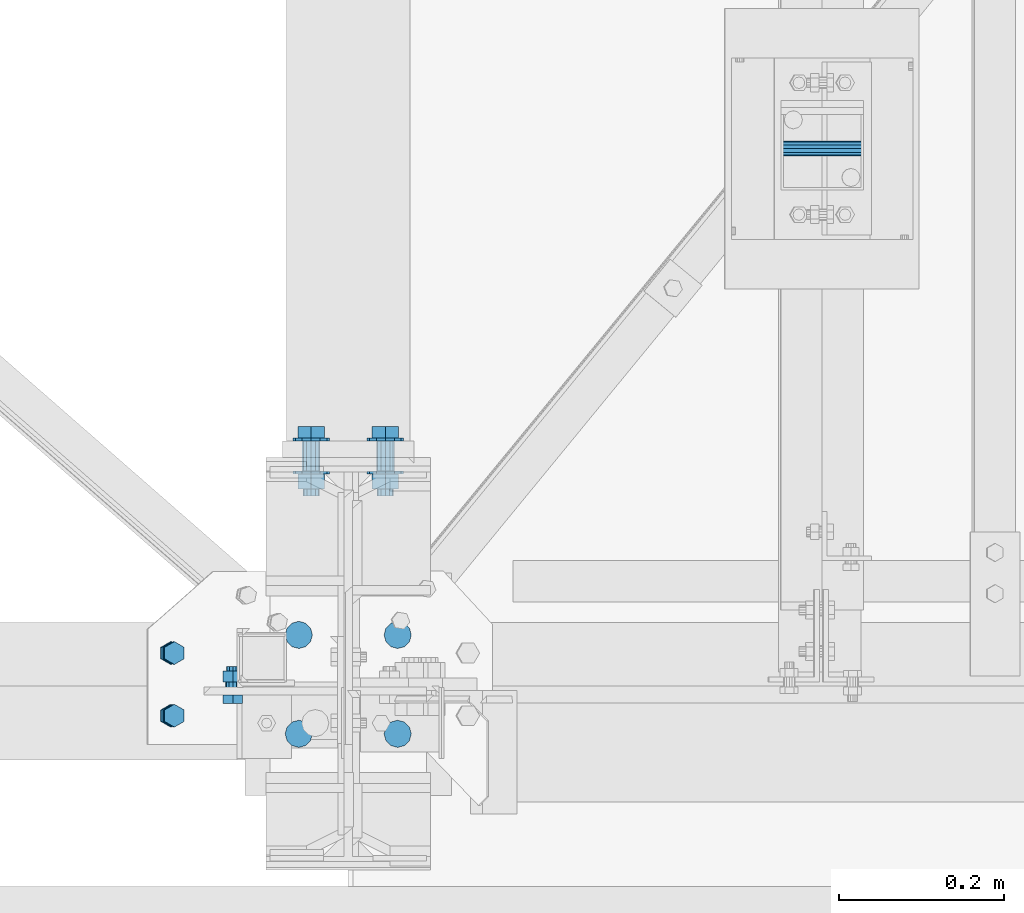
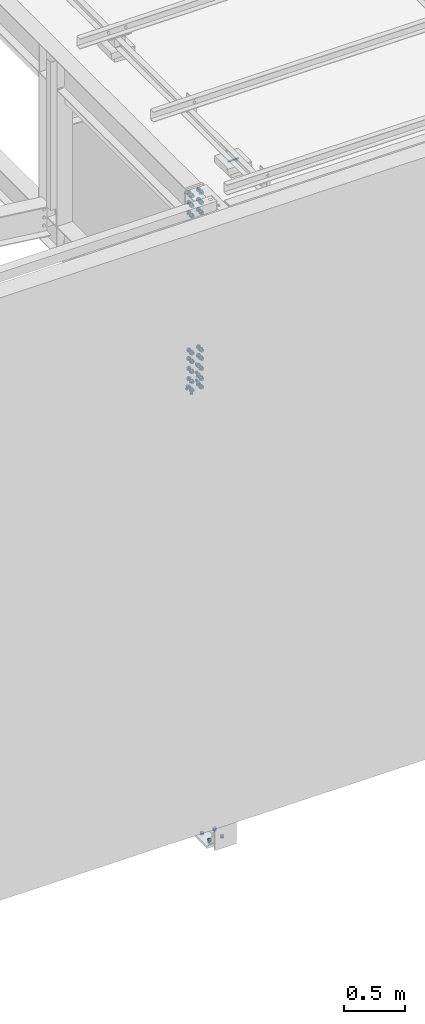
# One storey, part 299 of 3134: 6 mechanical fasteners, 4 elements without a shape of their own.
"""IFC2X3 building model written with IfcOpenShell, lengths in millimetres."""

import ifcopenshell
import ifcopenshell.guid

model = None  # the IFC model being written
_history = None  # IfcOwnerHistory: only IFC2X3 demands one
_inside = {}  # id of a spatial element -> (the spatial element, [elements in it])
_under = {}  # id of a project, library or spatial element -> (it, [spatial elements below it])
_declared = {}  # id of a project -> (the project, [libraries it declares])
_typed = {}  # id of a type object -> (the type object, [elements of that type])
_made_of = {}  # id of a material, layer set ... -> (it, [elements and type objects made of it])


def new_model(schema):
    """Start an empty IFC model of exactly this schema.

    Asked for "IFC4X3", IfcOpenShell would pick the latest addendum, in which some entities
    have other attributes; the version numbers below select the first issue.
    IFC2X3 requires an IfcOwnerHistory on every rooted entity: one is made here for all.
    """
    global model, _history
    if schema == "IFC4X3":
        model = ifcopenshell.file(schema_version=(4, 3, 0, 0))
    else:
        model = ifcopenshell.file(schema=schema)
    _inside.clear()
    _under.clear()
    _declared.clear()
    _typed.clear()
    _made_of.clear()
    _history = None
    if model.schema == "IFC2X3":
        org = make("IfcOrganization", Name="unknown")
        user = make(
            "IfcPersonAndOrganization",
            ThePerson=make("IfcPerson", FamilyName="unknown"),
            TheOrganization=org,
        )
        app = make(
            "IfcApplication",
            ApplicationDeveloper=org,
            Version="unknown",
            ApplicationFullName="unknown",
            ApplicationIdentifier="unknown",
        )
        _history = make(
            "IfcOwnerHistory",
            OwningUser=user,
            OwningApplication=app,
            ChangeAction="ADDED",
            CreationDate=0,
        )
    return model


def make(cls, **values):
    """One entity of the class cls with the attributes given. An attribute that is None is left unset."""
    return model.create_entity(
        cls, **{name: value for name, value in values.items() if value is not None}
    )


def rooted(cls, **values):
    """An entity with a GlobalId (a new one), such as an element, a storey or a relation."""
    return make(cls, GlobalId=ifcopenshell.guid.new(), OwnerHistory=_history, **values)


def si_unit(unit_type, name, prefix=None):
    """IfcSIUnit, for example si_unit("LENGTHUNIT", "METRE", prefix="MILLI")."""
    return make("IfcSIUnit", UnitType=unit_type, Prefix=prefix, Name=name)


def assignment(units):
    """IfcUnitAssignment: the units of a project."""
    return None if units is None else make("IfcUnitAssignment", Units=units)


def point(xyz):
    """IfcCartesianPoint."""
    return None if xyz is None else make("IfcCartesianPoint", Coordinates=xyz)


def direction(xyz):
    """IfcDirection."""
    return None if xyz is None else make("IfcDirection", DirectionRatios=xyz)


def frame(location, z_axis=None, x_axis=None):
    """IfcAxis2Placement3D, a coordinate frame: its origin and axes. An axis left out is left unset."""
    return make(
        "IfcAxis2Placement3D",
        Location=point(location),
        Axis=direction(z_axis),
        RefDirection=direction(x_axis),
    )


def origin_with_axes():
    """The frame at (0, 0, 0) with the z axis (0, 0, 1) and the x axis (1, 0, 0) written out."""
    return frame((0.0, 0.0, 0.0), z_axis=(0.0, 0.0, 1.0), x_axis=(1.0, 0.0, 0.0))


def place(relative_to, where):
    """IfcLocalPlacement: puts the frame where relative to a parent placement (None: the world)."""
    return make(
        "IfcLocalPlacement", PlacementRelTo=relative_to, RelativePlacement=where
    )


def context(
    kind, dimensions, precision=None, world=None, true_north=None, identifier=None
):
    """IfcGeometricRepresentationContext, for example the 3D "Model" context."""
    return make(
        "IfcGeometricRepresentationContext",
        ContextIdentifier=identifier,
        ContextType=kind,
        CoordinateSpaceDimension=dimensions,
        Precision=precision,
        WorldCoordinateSystem=world,
        TrueNorth=true_north,
    )


def subcontext(parent, identifier, kind, view, scale=None):
    """IfcGeometricRepresentationSubContext, for example "Body" below "Model"."""
    return make(
        "IfcGeometricRepresentationSubContext",
        ContextIdentifier=identifier,
        ContextType=kind,
        ParentContext=parent,
        TargetScale=scale,
        TargetView=view,
    )


def project(units=None, contexts=None):
    """IfcProject with its units and contexts."""
    return rooted(
        "IfcProject",
        Name="project",
        RepresentationContexts=contexts,
        UnitsInContext=assignment(units),
    )


def spatial(cls, under=None, at=None, **own):
    """A site, building, storey or space (cls), placed at a placement, below another one or the project."""
    s = rooted(cls, ObjectPlacement=at, **own)
    if under is not None:
        _under.setdefault(under.id(), (under, []))[1].append(s)
    return s


def faces_of(points, faces, orient=None, outer=None):
    """IfcFace entities. A face is a list of loops; a loop is a list of indices into points, from 0.

    orient and outer hold one flag for each loop. By default every Orientation is true, the
    first loop of a face is its IfcFaceOuterBound and the others are IfcFaceBound.
    """
    made = []
    for i, loops in enumerate(faces):
        bounds = []
        for j, loop in enumerate(loops):
            is_outer = j == 0 if outer is None else outer[i][j]
            bounds.append(
                make(
                    "IfcFaceOuterBound" if is_outer else "IfcFaceBound",
                    Bound=make("IfcPolyLoop", Polygon=[points[k] for k in loop]),
                    Orientation=True if orient is None else orient[i][j],
                )
            )
        made.append(make("IfcFace", Bounds=bounds))
    return made


def faceted_brep(points, faces, orient=None, outer=None, voids=None):
    """IfcFacetedBrep: a solid bounded by flat faces; with voids (closed shells), ...WithVoids."""
    shared = [point(p) for p in points]
    hull = make("IfcClosedShell", CfsFaces=faces_of(shared, faces, orient, outer))
    if voids is None:
        return make("IfcFacetedBrep", Outer=hull)
    return make(
        "IfcFacetedBrepWithVoids",
        Outer=hull,
        Voids=[
            make(cls, CfsFaces=faces_of(shared, fs, o, b)) for cls, fs, o, b in voids
        ],
    )


def shape(context_of_items, identifier, shape_type, items):
    """IfcShapeRepresentation: the items that make up one representation, for example the "Body"."""
    return make(
        "IfcShapeRepresentation",
        ContextOfItems=context_of_items,
        RepresentationIdentifier=identifier,
        RepresentationType=shape_type,
        Items=items,
    )


def source(mapping_origin, context_of_items, identifier, shape_type, items):
    """IfcRepresentationMap: a shape defined once, which mapped items show again and again."""
    return make(
        "IfcRepresentationMap",
        MappingOrigin=mapping_origin,
        MappedRepresentation=shape(context_of_items, identifier, shape_type, items),
    )


def transform(
    local_origin,
    x_axis=None,
    y_axis=None,
    z_axis=None,
    scale=None,
    scale2=None,
    scale3=None,
    uniform=True,
):
    """IfcCartesianTransformationOperator3D, or its non-uniform kind. x_axis, y_axis, z_axis: its Axis1, 2, 3."""
    if uniform:
        return make(
            "IfcCartesianTransformationOperator3D",
            Axis1=direction(x_axis),
            Axis2=direction(y_axis),
            LocalOrigin=point(local_origin),
            Scale=scale,
            Axis3=direction(z_axis),
        )
    return make(
        "IfcCartesianTransformationOperator3DnonUniform",
        Axis1=direction(x_axis),
        Axis2=direction(y_axis),
        LocalOrigin=point(local_origin),
        Scale=scale,
        Axis3=direction(z_axis),
        Scale2=scale2,
        Scale3=scale3,
    )


def mapped(mapping_source, mapping_target):
    """IfcMappedItem: shows the shape of a source again, moved by a transform."""
    return make(
        "IfcMappedItem", MappingSource=mapping_source, MappingTarget=mapping_target
    )


def material(Name=None, Category=None):
    """IfcMaterial."""
    return make("IfcMaterial", Name=Name, Category=Category)


def made_of(thing, what):
    """Note that an element or type object is made of a material, layer set ...; save() writes the relation."""
    if what is not None:
        _made_of.setdefault(what.id(), (what, []))[1].append(thing)
    return thing


def type_object(cls, material=None, **own):
    """A type object (cls), such as IfcWallType, which elements share."""
    return made_of(rooted(cls, **own), material)


def element(
    cls,
    number,
    at=None,
    inside=None,
    cuts=None,
    type_object=None,
    material=None,
    context=None,
    identifier="Body",
    shape_type=None,
    held_by="IfcProductDefinitionShape",
    body=None,
    shapes=None,
    **own,
):
    """One element of the class cls, such as IfcWall. Its Tag is "e" and its number.

    at: its placement. inside: the storey or other place that contains it. cuts: it is an
    opening in that element (IfcRelVoidsElement). A single representation is given by context,
    identifier, shape_type and body (its items); several are given by shapes. held_by: the class
    of the entity that holds the representations. save() writes the other relations.
    """
    e = rooted(cls, Tag="e%d" % number, ObjectPlacement=at, **own)
    if body is not None:
        shapes = [shape(context, identifier, shape_type, body)]
    if shapes is not None:
        e.Representation = make(held_by, Representations=shapes)
    if inside is not None:
        _inside.setdefault(inside.id(), (inside, []))[1].append(e)
    if cuts is not None:
        rooted(
            "IfcRelVoidsElement", RelatingBuildingElement=cuts, RelatedOpeningElement=e
        )
    if type_object is not None:
        _typed.setdefault(type_object.id(), (type_object, []))[1].append(e)
    return made_of(e, material)


def aggregate(whole, parts):
    """IfcRelAggregates: a whole, such as a stair, and the parts it consists of."""
    return rooted("IfcRelAggregates", RelatingObject=whole, RelatedObjects=parts)


def save(model, path):
    """Write the relations noted so far, then the file.

    IfcRelAggregates (storeys below a building ...), IfcRelContainedInSpatialStructure (elements
    in a storey), IfcRelDefinesByType, IfcRelAssociatesMaterial and IfcRelDeclares: one each for
    every whole, place, type object, material and project.
    """
    for whole, parts in _under.values():
        aggregate(whole, parts)
    for where, things in _inside.values():
        rooted(
            "IfcRelContainedInSpatialStructure",
            RelatedElements=things,
            RelatingStructure=where,
        )
    for kind, things in _typed.values():
        rooted("IfcRelDefinesByType", RelatedObjects=things, RelatingType=kind)
    for what, things in _made_of.values():
        rooted("IfcRelAssociatesMaterial", RelatedObjects=things, RelatingMaterial=what)
    for by, libraries in _declared.values():
        rooted("IfcRelDeclares", RelatingContext=by, RelatedDefinitions=libraries)
    model.write(path)


model = new_model("IFC2X3")

# Units and contexts
model_context = context("Model", 3, precision=1e-05, world=origin_with_axes())
body_context = subcontext(model_context, "Body", "Model", "MODEL_VIEW")
ifc_project = project(units=[si_unit("LENGTHUNIT", "METRE", prefix="MILLI"), si_unit("AREAUNIT", "SQUARE_METRE"), si_unit("VOLUMEUNIT", "CUBIC_METRE"), si_unit("MASSUNIT", "GRAM", prefix="KILO"), si_unit("TIMEUNIT", "SECOND"), si_unit("PLANEANGLEUNIT", "RADIAN"), si_unit("SOLIDANGLEUNIT", "STERADIAN"), si_unit("THERMODYNAMICTEMPERATUREUNIT", "DEGREE_CELSIUS"), si_unit("LUMINOUSINTENSITYUNIT", "LUMEN")], contexts=[model_context])

# Site, building, storey
site_placement = place(None, origin_with_axes())
site = spatial("IfcSite", under=ifc_project, at=site_placement, CompositionType="ELEMENT")
building_placement = place(site_placement, origin_with_axes())
building = spatial("IfcBuilding", under=site, at=building_placement, Name="Undefined", CompositionType="ELEMENT")
storey_placement = place(building_placement, origin_with_axes())
storey = spatial("IfcBuildingStorey", under=building, at=storey_placement, Name="Undefined", CompositionType="ELEMENT", Elevation=0.0)

# Assembly, mechanical fasteners
assembly_1_placement = place(storey_placement, origin_with_axes())
assembly_1 = element("IfcElementAssembly", 1, at=assembly_1_placement, inside=storey, Name="300", AssemblyPlace="NOTDEFINED", PredefinedType="RIGID_FRAME")
ifc_material_1 = material(Name="HR10.9")
mechanical_fastener_type = type_object("IfcMechanicalFastenerType", Name="Bolt assembly")
shared_shape_1 = source(origin_with_axes(), body_context, "Body", "Brep", [
    faceted_brep([(18.475208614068, -17.599999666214, 0.0), (9.23760430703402, -17.599999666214, 16.0), (-9.23760430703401, -17.599999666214, 16.0), (-18.475208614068, -17.599999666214, 2.2625605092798e-15), (-9.23760430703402, -17.599999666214, -16.0), (9.237604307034, -17.599999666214, -16.0), (9.237604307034, -3.70000004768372, -16.0), (-9.23760430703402, -3.70000004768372, -16.0), (-18.475208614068, -3.70000004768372, 2.2625605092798e-15), (-9.23760430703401, -3.70000004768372, 16.0), (9.23760430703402, -3.70000004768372, 16.0), (18.475208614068, -3.70000004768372, 0.0), (10.0, -3.70000004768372, 0.0), (8.66025403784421, -3.70000004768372, 5.0000000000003), (4.9999999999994, -3.70000004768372, 8.66025403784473), (-1.03633598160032e-12, -3.70000004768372, 10.0), (-5.00000000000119, -3.70000004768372, 8.6602540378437), (-8.66025403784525, -3.70000004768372, 4.99999999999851), (-10.0, -3.70000004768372, -2.07267196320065e-12), (-8.66025403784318, -3.70000004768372, -5.00000000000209), (-4.99999999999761, -3.70000004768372, -8.66025403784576), (3.09790571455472e-12, -3.70000004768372, -10.0), (5.00000000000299, -3.70000004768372, -8.66025403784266), (8.66025403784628, -3.70000004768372, -4.99999999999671), (8.66025403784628, 66.2999999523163, -4.99999999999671), (5.00000000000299, 66.2999999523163, -8.66025403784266), (3.09790571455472e-12, 66.2999999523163, -10.0), (-4.99999999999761, 66.2999999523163, -8.66025403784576), (-8.66025403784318, 66.2999999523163, -5.00000000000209), (-10.0, 66.2999999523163, -2.07267196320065e-12), (-8.66025403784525, 66.2999999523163, 4.99999999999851), (-5.00000000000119, 66.2999999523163, 8.6602540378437), (-1.03633598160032e-12, 66.2999999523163, 10.0), (4.9999999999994, 66.2999999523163, 8.66025403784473), (8.66025403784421, 66.2999999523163, 5.0000000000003), (10.0, 66.2999999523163, 0.0), (22.0, -3.70000004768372, 0.0), (19.0525588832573, -3.70000004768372, 11.0000000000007), (10.9999999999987, -3.70000004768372, 19.0525588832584), (-2.27993915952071e-12, -3.70000004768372, 22.0), (-11.0000000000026, -3.70000004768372, 19.0525588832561), (-19.0525588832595, -3.70000004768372, 10.9999999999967), (-22.0, -3.70000004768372, -4.55987831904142e-12), (-19.052558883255, -3.70000004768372, -11.0000000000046), (-10.9999999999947, -3.70000004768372, -19.0525588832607), (6.81539257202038e-12, -3.70000004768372, -22.0), (11.0000000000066, -3.70000004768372, -19.0525588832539), (19.0525588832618, -3.70000004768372, -10.9999999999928), (19.0525588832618, 0.0, -10.9999999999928), (11.0000000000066, 0.0, -19.0525588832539), (6.81539257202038e-12, 0.0, -22.0), (-10.9999999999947, 0.0, -19.0525588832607), (-19.052558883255, 0.0, -11.0000000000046), (-22.0, 0.0, -4.55987831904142e-12), (-19.0525588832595, 0.0, 10.9999999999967), (-11.0000000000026, 0.0, 19.0525588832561), (-2.27993915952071e-12, 0.0, 22.0), (10.9999999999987, 0.0, 19.0525588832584), (19.0525588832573, 0.0, 11.0000000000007), (22.0, 0.0, 0.0), (22.0, 36.0, 0.0), (19.0525588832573, 36.0, 11.0000000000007), (10.9999999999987, 36.0, 19.0525588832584), (-2.27993915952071e-12, 36.0, 22.0), (-11.0000000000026, 36.0, 19.0525588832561), (-19.0525588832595, 36.0, 10.9999999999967), (-22.0, 36.0, -4.55987831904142e-12), (-19.052558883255, 36.0, -11.0000000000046), (-10.9999999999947, 36.0, -19.0525588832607), (6.81539257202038e-12, 36.0, -22.0), (11.0000000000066, 36.0, -19.0525588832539), (19.0525588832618, 36.0, -10.9999999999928), (19.0525588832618, 39.7000000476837, -10.9999999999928), (11.0000000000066, 39.7000000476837, -19.0525588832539), (6.81539257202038e-12, 39.7000000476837, -22.0), (-10.9999999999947, 39.7000000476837, -19.0525588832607), (-19.052558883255, 39.7000000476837, -11.0000000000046), (-22.0, 39.7000000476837, -4.55987831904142e-12), (-19.0525588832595, 39.7000000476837, 10.9999999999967), (-11.0000000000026, 39.7000000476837, 19.0525588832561), (-2.27993915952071e-12, 39.7000000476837, 22.0), (10.9999999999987, 39.7000000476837, 19.0525588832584), (19.0525588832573, 39.7000000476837, 11.0000000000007), (22.0, 39.7000000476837, 0.0), (18.475208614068, 39.7000000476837, 0.0), (9.23760430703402, 39.7000000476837, 16.0), (-9.23760430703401, 39.7000000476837, 16.0), (-18.475208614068, 39.7000000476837, 2.2625605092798e-15), (-9.23760430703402, 39.7000000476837, -16.0), (9.237604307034, 39.7000000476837, -16.0), (9.237604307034, 58.2499992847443, -16.0), (-9.23760430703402, 58.2499992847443, -16.0), (-18.475208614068, 58.2499992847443, 2.2625605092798e-15), (-9.23760430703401, 58.2499992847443, 16.0), (9.23760430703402, 58.2499992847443, 16.0), (18.475208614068, 58.2499992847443, 0.0)], [[[0, 1, 2, 3, 4, 5]], [[6, 7, 8, 9, 10, 11]], [[0, 11, 10, 1]], [[1, 10, 9, 2]], [[2, 9, 8, 3]], [[3, 8, 7, 4]], [[4, 7, 6, 5]], [[5, 6, 11, 0]], [[12, 13, 14, 15, 16, 17, 18, 19, 20, 21, 22, 23]], [[24, 25, 26, 27, 28, 29, 30, 31, 32, 33, 34, 35]], [[12, 35, 34, 13]], [[13, 34, 33, 14]], [[14, 33, 32, 15]], [[15, 32, 31, 16]], [[16, 31, 30, 17]], [[17, 30, 29, 18]], [[18, 29, 28, 19]], [[19, 28, 27, 20]], [[20, 27, 26, 21]], [[21, 26, 25, 22]], [[22, 25, 24, 23]], [[23, 24, 35, 12]], [[36, 37, 38, 39, 40, 41, 42, 43, 44, 45, 46, 47]], [[48, 49, 50, 51, 52, 53, 54, 55, 56, 57, 58, 59]], [[36, 59, 58, 37]], [[37, 58, 57, 38]], [[38, 57, 56, 39]], [[39, 56, 55, 40]], [[40, 55, 54, 41]], [[41, 54, 53, 42]], [[42, 53, 52, 43]], [[43, 52, 51, 44]], [[44, 51, 50, 45]], [[45, 50, 49, 46]], [[46, 49, 48, 47]], [[47, 48, 59, 36]], [[60, 61, 62, 63, 64, 65, 66, 67, 68, 69, 70, 71]], [[72, 73, 74, 75, 76, 77, 78, 79, 80, 81, 82, 83]], [[60, 83, 82, 61]], [[61, 82, 81, 62]], [[62, 81, 80, 63]], [[63, 80, 79, 64]], [[64, 79, 78, 65]], [[65, 78, 77, 66]], [[66, 77, 76, 67]], [[67, 76, 75, 68]], [[68, 75, 74, 69]], [[69, 74, 73, 70]], [[70, 73, 72, 71]], [[71, 72, 83, 60]], [[84, 85, 86, 87, 88, 89]], [[90, 91, 92, 93, 94, 95]], [[84, 95, 94, 85]], [[85, 94, 93, 86]], [[86, 93, 92, 87]], [[87, 92, 91, 88]], [[88, 91, 90, 89]], [[89, 90, 95, 84]]]),
    faceted_brep([(11.0, 19.9, 0.0), (9.52627944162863, 19.9, 5.50000000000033), (5.49999999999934, 19.9, 9.5262794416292), (-1.13996957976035e-12, 19.9, 11.0), (-5.50000000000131, 19.9, 9.52627944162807), (-9.52627944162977, 19.9, 5.49999999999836), (-11.0, 19.9, -2.27993915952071e-12), (-9.5262794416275, 19.9, -5.5000000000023), (-5.49999999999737, 19.9, -9.52627944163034), (3.40769628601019e-12, 19.9, -11.0), (5.50000000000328, 19.9, -9.52627944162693), (9.52627944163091, 19.9, -5.49999999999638), (9.52627944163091, 36.0, -5.49999999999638), (5.50000000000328, 36.0, -9.52627944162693), (3.40769628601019e-12, 36.0, -11.0), (-5.49999999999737, 36.0, -9.52627944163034), (-9.5262794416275, 36.0, -5.5000000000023), (-11.0, 36.0, -2.27993915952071e-12), (-9.52627944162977, 36.0, 5.49999999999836), (-5.50000000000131, 36.0, 9.52627944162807), (-1.13996957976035e-12, 36.0, 11.0), (5.49999999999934, 36.0, 9.5262794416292), (9.52627944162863, 36.0, 5.50000000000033), (11.0, 36.0, 0.0), (11.0, 0.0999999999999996, 0.0), (9.52627944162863, 0.0999999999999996, 5.50000000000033), (5.49999999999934, 0.0999999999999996, 9.5262794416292), (-1.13996957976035e-12, 0.0999999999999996, 11.0), (-5.50000000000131, 0.0999999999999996, 9.52627944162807), (-9.52627944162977, 0.0999999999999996, 5.49999999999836), (-11.0, 0.0999999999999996, -2.27993915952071e-12), (-9.5262794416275, 0.0999999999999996, -5.5000000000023), (-5.49999999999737, 0.0999999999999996, -9.52627944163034), (3.40769628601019e-12, 0.0999999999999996, -11.0), (5.50000000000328, 0.0999999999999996, -9.52627944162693), (9.52627944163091, 0.0999999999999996, -5.49999999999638), (9.52627944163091, 20.1, -5.49999999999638), (5.50000000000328, 20.1, -9.52627944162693), (3.40769628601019e-12, 20.1, -11.0), (-5.49999999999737, 20.1, -9.52627944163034), (-9.5262794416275, 20.1, -5.5000000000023), (-11.0, 20.1, -2.27993915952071e-12), (-9.52627944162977, 20.1, 5.49999999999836), (-5.50000000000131, 20.1, 9.52627944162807), (-1.13996957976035e-12, 20.1, 11.0), (5.49999999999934, 20.1, 9.5262794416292), (9.52627944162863, 20.1, 5.50000000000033), (11.0, 20.1, 0.0)], [[[0, 1, 2, 3, 4, 5, 6, 7, 8, 9, 10, 11]], [[12, 13, 14, 15, 16, 17, 18, 19, 20, 21, 22, 23]], [[0, 23, 22, 1]], [[1, 22, 21, 2]], [[2, 21, 20, 3]], [[3, 20, 19, 4]], [[4, 19, 18, 5]], [[5, 18, 17, 6]], [[6, 17, 16, 7]], [[7, 16, 15, 8]], [[8, 15, 14, 9]], [[9, 14, 13, 10]], [[10, 13, 12, 11]], [[11, 12, 23, 0]], [[24, 25, 26, 27, 28, 29, 30, 31, 32, 33, 34, 35]], [[36, 37, 38, 39, 40, 41, 42, 43, 44, 45, 46, 47]], [[24, 47, 46, 25]], [[25, 46, 45, 26]], [[26, 45, 44, 27]], [[27, 44, 43, 28]], [[28, 43, 42, 29]], [[29, 42, 41, 30]], [[30, 41, 40, 31]], [[31, 40, 39, 32]], [[32, 39, 38, 33]], [[33, 38, 37, 34]], [[34, 37, 36, 35]], [[35, 36, 47, 24]]]),
])
mechanical_fastener_1_placement = place(assembly_1_placement, frame((67550.0, 295.0, 5841.5), z_axis=(-1.0, 0.0, 0.0), x_axis=(0.0, 0.0, -1.0)))
mechanical_fastener_1 = element("IfcMechanicalFastener", 2, at=mechanical_fastener_1_placement, type_object=mechanical_fastener_type, material=ifc_material_1, Name="Bolt assembly", NominalDiameter=20.0, NominalLength=70.0, context=body_context, shape_type="MappedRepresentation", body=[
    mapped(shared_shape_1, transform((0.0, 0.0, -45.0))),
    mapped(shared_shape_1, transform((100.0, 0.0, -45.0))),
    mapped(shared_shape_1, transform((200.0, 0.0, -45.0))),
    mapped(shared_shape_1, transform((0.0, 0.0, 45.0))),
    mapped(shared_shape_1, transform((100.0, 0.0, 45.0))),
    mapped(shared_shape_1, transform((200.0, 0.0, 45.0))),
])
mechanical_fastener_2_placement = place(assembly_1_placement, frame((67550.0, 295.0, 4273.5), z_axis=(-1.0, 0.0, 0.0), x_axis=(0.0, 0.0, -1.0)))
mechanical_fastener_2 = element("IfcMechanicalFastener", 3, at=mechanical_fastener_2_placement, type_object=mechanical_fastener_type, material=ifc_material_1, Name="Bolt assembly", NominalDiameter=20.0, NominalLength=70.0, context=body_context, shape_type="MappedRepresentation", body=[
    mapped(shared_shape_1, transform((0.0, 0.0, -45.0))),
    mapped(shared_shape_1, transform((85.0, 0.0, -45.0))),
    mapped(shared_shape_1, transform((185.0, 0.0, -45.0))),
    mapped(shared_shape_1, transform((285.0, 0.0, -45.0))),
    mapped(shared_shape_1, transform((370.0, 0.0, -45.0))),
    mapped(shared_shape_1, transform((0.0, 0.0, 45.0))),
    mapped(shared_shape_1, transform((85.0, 0.0, 45.0))),
    mapped(shared_shape_1, transform((185.0, 0.0, 45.0))),
    mapped(shared_shape_1, transform((285.0, 0.0, 45.0))),
    mapped(shared_shape_1, transform((370.0, 0.0, 45.0))),
])
aggregate(assembly_1, [mechanical_fastener_1, mechanical_fastener_2])

# Assembly, mechanical fastener
assembly_2_placement = place(storey_placement, origin_with_axes())
assembly_2 = element("IfcElementAssembly", 4, at=assembly_2_placement, inside=storey, Name="300", AssemblyPlace="NOTDEFINED", PredefinedType="RIGID_FRAME")
ifc_material_2 = material(Name="8.8")
shared_shape_2 = source(origin_with_axes(), body_context, "Body", "Brep", [
    faceted_brep([(13.856406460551, -23.0499999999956, 0.0), (6.92820323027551, -23.0499999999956, 12.0), (-6.92820323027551, -23.0499999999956, 12.0), (-13.856406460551, -23.0499999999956, 1.69692038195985e-15), (-6.92820323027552, -23.0499999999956, -12.0), (6.9282032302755, -23.0499999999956, -12.0), (6.9282032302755, -13.0499999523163, -12.0), (-6.92820323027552, -13.0499999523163, -12.0), (-13.856406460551, -13.0499999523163, 1.69692038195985e-15), (-6.92820323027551, -13.0499999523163, 12.0), (6.92820323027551, -13.0499999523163, 12.0), (13.856406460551, -13.0499999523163, 0.0), (8.0, -13.0499999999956, 0.0), (6.92820323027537, -13.0499999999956, 4.00000000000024), (3.99999999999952, -13.0499999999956, 6.92820323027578), (-8.29068785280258e-13, -13.0499999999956, 8.0), (-4.00000000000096, -13.0499999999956, 6.92820323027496), (-6.9282032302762, -13.0499999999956, 3.99999999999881), (-8.0, -13.0499999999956, -1.65813757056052e-12), (-6.92820323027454, -13.0499999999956, -4.00000000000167), (-3.99999999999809, -13.0499999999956, -6.92820323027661), (2.47832457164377e-12, -13.0499999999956, -8.0), (4.00000000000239, -13.0499999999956, -6.92820323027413), (6.92820323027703, -13.0499999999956, -3.99999999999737), (6.92820323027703, 21.9500000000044, -3.99999999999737), (4.00000000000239, 21.9500000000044, -6.92820323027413), (2.47832457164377e-12, 21.9500000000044, -8.0), (-3.99999999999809, 21.9500000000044, -6.92820323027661), (-6.92820323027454, 21.9500000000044, -4.00000000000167), (-8.0, 21.9500000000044, -1.65813757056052e-12), (-6.9282032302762, 21.9500000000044, 3.99999999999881), (-4.00000000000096, 21.9500000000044, 6.92820323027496), (-8.29068785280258e-13, 21.9500000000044, 8.0), (3.99999999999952, 21.9500000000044, 6.92820323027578), (6.92820323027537, 21.9500000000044, 4.00000000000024), (8.0, 21.9500000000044, 0.0), (13.856406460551, 3.04999995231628, 0.0), (6.92820323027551, 3.04999995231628, 12.0), (-6.92820323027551, 3.04999995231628, 12.0), (-13.856406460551, 3.04999995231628, 1.69692038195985e-15), (-6.92820323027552, 3.04999995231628, -12.0), (6.9282032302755, 3.04999995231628, -12.0), (6.9282032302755, 16.0499999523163, -12.0), (-6.92820323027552, 16.0499999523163, -12.0), (-13.856406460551, 16.0499999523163, 1.69692038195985e-15), (-6.92820323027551, 16.0499999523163, 12.0), (6.92820323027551, 16.0499999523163, 12.0), (13.856406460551, 16.0499999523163, 0.0)], [[[0, 1, 2, 3, 4, 5]], [[6, 7, 8, 9, 10, 11]], [[0, 11, 10, 1]], [[1, 10, 9, 2]], [[2, 9, 8, 3]], [[3, 8, 7, 4]], [[4, 7, 6, 5]], [[5, 6, 11, 0]], [[12, 13, 14, 15, 16, 17, 18, 19, 20, 21, 22, 23]], [[24, 25, 26, 27, 28, 29, 30, 31, 32, 33, 34, 35]], [[12, 35, 34, 13]], [[13, 34, 33, 14]], [[14, 33, 32, 15]], [[15, 32, 31, 16]], [[16, 31, 30, 17]], [[17, 30, 29, 18]], [[18, 29, 28, 19]], [[19, 28, 27, 20]], [[20, 27, 26, 21]], [[21, 26, 25, 22]], [[22, 25, 24, 23]], [[23, 24, 35, 12]], [[36, 37, 38, 39, 40, 41]], [[42, 43, 44, 45, 46, 47]], [[36, 47, 46, 37]], [[37, 46, 45, 38]], [[38, 45, 44, 39]], [[39, 44, 43, 40]], [[40, 43, 42, 41]], [[41, 42, 47, 36]]]),
    faceted_brep([(9.0, -12.9499999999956, 0.0), (7.79422863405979, -12.9499999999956, 4.50000000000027), (4.49999999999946, -12.9499999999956, 7.79422863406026), (-9.3270238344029e-13, -12.9499999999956, 9.0), (-4.50000000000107, -12.9499999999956, 7.79422863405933), (-7.79422863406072, -12.9499999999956, 4.49999999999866), (-9.0, -12.9499999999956, -1.86540476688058e-12), (-7.79422863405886, -12.9499999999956, -4.50000000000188), (-4.49999999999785, -12.9499999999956, -7.79422863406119), (2.78811514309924e-12, -12.9499999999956, -9.0), (4.50000000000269, -12.9499999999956, -7.7942286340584), (7.79422863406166, -12.9499999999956, -4.49999999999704), (7.79422863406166, -2.94999995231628, -4.49999999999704), (4.50000000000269, -2.94999995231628, -7.7942286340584), (2.78811514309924e-12, -2.94999995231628, -9.0), (-4.49999999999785, -2.94999995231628, -7.79422863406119), (-7.79422863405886, -2.94999995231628, -4.50000000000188), (-9.0, -2.94999995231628, -1.86540476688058e-12), (-7.79422863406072, -2.94999995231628, 4.49999999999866), (-4.50000000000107, -2.94999995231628, 7.79422863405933), (-9.3270238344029e-13, -2.94999995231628, 9.0), (4.49999999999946, -2.94999995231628, 7.79422863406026), (7.79422863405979, -2.94999995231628, 4.50000000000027), (9.0, -2.94999995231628, 0.0), (9.0, -3.14999995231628, 0.0), (7.79422863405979, -3.14999995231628, 4.50000000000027), (4.49999999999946, -3.14999995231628, 7.79422863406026), (-9.3270238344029e-13, -3.14999995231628, 9.0), (-4.50000000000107, -3.14999995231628, 7.79422863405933), (-7.79422863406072, -3.14999995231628, 4.49999999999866), (-9.0, -3.14999995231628, -1.86540476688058e-12), (-7.79422863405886, -3.14999995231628, -4.50000000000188), (-4.49999999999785, -3.14999995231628, -7.79422863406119), (2.78811514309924e-12, -3.14999995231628, -9.0), (4.50000000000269, -3.14999995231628, -7.7942286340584), (7.79422863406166, -3.14999995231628, -4.49999999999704), (7.79422863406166, 3.04999995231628, -4.49999999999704), (4.50000000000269, 3.04999995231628, -7.7942286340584), (2.78811514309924e-12, 3.04999995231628, -9.0), (-4.49999999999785, 3.04999995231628, -7.79422863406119), (-7.79422863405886, 3.04999995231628, -4.50000000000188), (-9.0, 3.04999995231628, -1.86540476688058e-12), (-7.79422863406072, 3.04999995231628, 4.49999999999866), (-4.50000000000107, 3.04999995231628, 7.79422863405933), (-9.3270238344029e-13, 3.04999995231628, 9.0), (4.49999999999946, 3.04999995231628, 7.79422863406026), (7.79422863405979, 3.04999995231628, 4.50000000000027), (9.0, 3.04999995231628, 0.0)], [[[0, 1, 2, 3, 4, 5, 6, 7, 8, 9, 10, 11]], [[12, 13, 14, 15, 16, 17, 18, 19, 20, 21, 22, 23]], [[0, 23, 22, 1]], [[1, 22, 21, 2]], [[2, 21, 20, 3]], [[3, 20, 19, 4]], [[4, 19, 18, 5]], [[5, 18, 17, 6]], [[6, 17, 16, 7]], [[7, 16, 15, 8]], [[8, 15, 14, 9]], [[9, 14, 13, 10]], [[10, 13, 12, 11]], [[11, 12, 23, 0]], [[24, 25, 26, 27, 28, 29, 30, 31, 32, 33, 34, 35]], [[36, 37, 38, 39, 40, 41, 42, 43, 44, 45, 46, 47]], [[24, 47, 46, 25]], [[25, 46, 45, 26]], [[26, 45, 44, 27]], [[27, 44, 43, 28]], [[28, 43, 42, 29]], [[29, 42, 41, 30]], [[30, 41, 40, 31]], [[31, 40, 39, 32]], [[32, 39, 38, 33]], [[33, 38, 37, 34]], [[34, 37, 36, 35]], [[35, 36, 47, 24]]]),
])
mechanical_fastener_3_placement = place(assembly_2_placement, frame((67410.0000000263, 0.0, 4340.49269268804), z_axis=(1.0, 0.0, 0.0), x_axis=(0.0, 0.0, -1.0)))
mechanical_fastener_3 = element("IfcMechanicalFastener", 5, at=mechanical_fastener_3_placement, type_object=mechanical_fastener_type, material=ifc_material_2, Name="Bolt assembly", NominalDiameter=16.0, NominalLength=35.0, context=body_context, shape_type="MappedRepresentation", body=[
    mapped(shared_shape_2, transform((0.0, 0.0, 0.0))),
    mapped(shared_shape_2, transform((80.0, 0.0, 0.0))),
    mapped(shared_shape_2, transform((160.0, 0.0, 0.0))),
])

assembly_3_placement = place(storey_placement, origin_with_axes())
assembly_3 = element("IfcElementAssembly", 6, at=assembly_3_placement, inside=storey, AssemblyPlace="NOTDEFINED", PredefinedType="RIGID_FRAME")
shared_shape_3 = source(origin_with_axes(), body_context, "Body", "Brep", [
    faceted_brep([(9.0, -50.0, 0.0), (7.79422863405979, -50.0, 4.50000000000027), (4.49999999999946, -50.0, 7.79422863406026), (-9.3270238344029e-13, -50.0, 9.0), (-4.50000000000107, -50.0, 7.79422863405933), (-7.79422863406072, -50.0, 4.49999999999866), (-9.0, -50.0, -1.86540476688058e-12), (-7.79422863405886, -50.0, -4.50000000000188), (-4.49999999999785, -50.0, -7.79422863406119), (2.78811514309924e-12, -50.0, -9.0), (4.50000000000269, -50.0, -7.7942286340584), (7.79422863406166, -50.0, -4.49999999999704), (7.79422863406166, 50.1, -4.49999999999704), (4.50000000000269, 50.1, -7.7942286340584), (2.78811514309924e-12, 50.1, -9.0), (-4.49999999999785, 50.1, -7.79422863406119), (-7.79422863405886, 50.1, -4.50000000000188), (-9.0, 50.1, -1.86540476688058e-12), (-7.79422863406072, 50.1, 4.49999999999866), (-4.50000000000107, 50.1, 7.79422863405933), (-9.3270238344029e-13, 50.1, 9.0), (4.49999999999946, 50.1, 7.79422863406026), (7.79422863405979, 50.1, 4.50000000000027), (9.0, 50.1, 0.0)], [[[0, 1, 2, 3, 4, 5, 6, 7, 8, 9, 10, 11]], [[12, 13, 14, 15, 16, 17, 18, 19, 20, 21, 22, 23]], [[0, 23, 22, 1]], [[1, 22, 21, 2]], [[2, 21, 20, 3]], [[3, 20, 19, 4]], [[4, 19, 18, 5]], [[5, 18, 17, 6]], [[6, 17, 16, 7]], [[7, 16, 15, 8]], [[8, 15, 14, 9]], [[9, 14, 13, 10]], [[10, 13, 12, 11]], [[11, 12, 23, 0]]]),
])
mechanical_fastener_4_placement = place(assembly_3_placement, frame((68125.0, 650.0, 5736.0), z_axis=(0.0, 1.0, 0.0), x_axis=(0.0, 0.0, 1.0)))
mechanical_fastener_4 = element("IfcMechanicalFastener", 7, at=mechanical_fastener_4_placement, type_object=mechanical_fastener_type, material=ifc_material_2, Name="Bolt assembly", NominalDiameter=16.0, NominalLength=100.0, context=body_context, shape_type="MappedRepresentation", body=[
    mapped(shared_shape_3, transform((0.0, 0.0, 0.0))),
])
aggregate(assembly_3, [mechanical_fastener_4])

# Mechanical fastener
shared_shape_4 = source(origin_with_axes(), body_context, "Body", "Brep", [
    faceted_brep([(13.856406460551, -19.2035068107, 0.0), (6.92820323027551, -19.2035068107, 12.0), (-6.92820323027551, -19.2035068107, 12.0), (-13.856406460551, -19.2035068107, 1.69692038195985e-15), (-6.92820323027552, -19.2035068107, -12.0), (6.9282032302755, -19.2035068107, -12.0), (6.9282032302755, -9.20350681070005, -12.0), (-6.92820323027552, -9.20350681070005, -12.0), (-13.856406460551, -9.20350681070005, 1.69692038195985e-15), (-6.92820323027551, -9.20350681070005, 12.0), (6.92820323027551, -9.20350681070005, 12.0), (13.856406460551, -9.20350681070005, 0.0), (8.0, -9.20350681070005, 0.0), (6.92820323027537, -9.20350681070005, 4.00000000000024), (3.99999999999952, -9.20350681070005, 6.92820323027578), (-8.29068785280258e-13, -9.20350681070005, 8.0), (-4.00000000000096, -9.20350681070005, 6.92820323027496), (-6.9282032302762, -9.20350681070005, 3.99999999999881), (-8.0, -9.20350681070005, -1.65813757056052e-12), (-6.92820323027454, -9.20350681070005, -4.00000000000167), (-3.99999999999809, -9.20350681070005, -6.92820323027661), (2.47832457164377e-12, -9.20350681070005, -8.0), (4.00000000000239, -9.20350681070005, -6.92820323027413), (6.92820323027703, -9.20350681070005, -3.99999999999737), (6.92820323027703, 25.7964931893, -3.99999999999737), (4.00000000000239, 25.7964931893, -6.92820323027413), (2.47832457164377e-12, 25.7964931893, -8.0), (-3.99999999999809, 25.7964931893, -6.92820323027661), (-6.92820323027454, 25.7964931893, -4.00000000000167), (-8.0, 25.7964931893, -1.65813757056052e-12), (-6.9282032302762, 25.7964931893, 3.99999999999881), (-4.00000000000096, 25.7964931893, 6.92820323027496), (-8.29068785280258e-13, 25.7964931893, 8.0), (3.99999999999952, 25.7964931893, 6.92820323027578), (6.92820323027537, 25.7964931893, 4.00000000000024), (8.0, 25.7964931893, 0.0), (13.856406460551, 7.99368960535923, 0.0), (6.92820323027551, 7.99368960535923, 12.0), (-6.92820323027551, 7.99368960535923, 12.0), (-13.856406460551, 7.99368960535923, 1.69692038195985e-15), (-6.92820323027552, 7.99368960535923, -12.0), (6.9282032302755, 7.99368960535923, -12.0), (6.9282032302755, 20.9936896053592, -12.0), (-6.92820323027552, 20.9936896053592, -12.0), (-13.856406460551, 20.9936896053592, 1.69692038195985e-15), (-6.92820323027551, 20.9936896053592, 12.0), (6.92820323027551, 20.9936896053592, 12.0), (13.856406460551, 20.9936896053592, 0.0)], [[[0, 1, 2, 3, 4, 5]], [[6, 7, 8, 9, 10, 11]], [[0, 11, 10, 1]], [[1, 10, 9, 2]], [[2, 9, 8, 3]], [[3, 8, 7, 4]], [[4, 7, 6, 5]], [[5, 6, 11, 0]], [[12, 13, 14, 15, 16, 17, 18, 19, 20, 21, 22, 23]], [[24, 25, 26, 27, 28, 29, 30, 31, 32, 33, 34, 35]], [[12, 35, 34, 13]], [[13, 34, 33, 14]], [[14, 33, 32, 15]], [[15, 32, 31, 16]], [[16, 31, 30, 17]], [[17, 30, 29, 18]], [[18, 29, 28, 19]], [[19, 28, 27, 20]], [[20, 27, 26, 21]], [[21, 26, 25, 22]], [[22, 25, 24, 23]], [[23, 24, 35, 12]], [[36, 37, 38, 39, 40, 41]], [[42, 43, 44, 45, 46, 47]], [[36, 47, 46, 37]], [[37, 46, 45, 38]], [[38, 45, 44, 39]], [[39, 44, 43, 40]], [[40, 43, 42, 41]], [[41, 42, 47, 36]]]),
    faceted_brep([(9.0, -0.106310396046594, 0.0), (7.79422863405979, -0.106310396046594, 4.50000000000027), (4.49999999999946, -0.106310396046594, 7.79422863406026), (-9.3270238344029e-13, -0.106310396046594, 9.0), (-4.50000000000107, -0.106310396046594, 7.79422863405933), (-7.79422863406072, -0.106310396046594, 4.49999999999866), (-9.0, -0.106310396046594, -1.86540476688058e-12), (-7.79422863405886, -0.106310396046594, -4.50000000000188), (-4.49999999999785, -0.106310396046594, -7.79422863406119), (2.78811514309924e-12, -0.106310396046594, -9.0), (4.50000000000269, -0.106310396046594, -7.7942286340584), (7.79422863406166, -0.106310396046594, -4.49999999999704), (7.79422863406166, 7.99368960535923, -4.49999999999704), (4.50000000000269, 7.99368960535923, -7.7942286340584), (2.78811514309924e-12, 7.99368960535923, -9.0), (-4.49999999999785, 7.99368960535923, -7.79422863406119), (-7.79422863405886, 7.99368960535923, -4.50000000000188), (-9.0, 7.99368960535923, -1.86540476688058e-12), (-7.79422863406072, 7.99368960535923, 4.49999999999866), (-4.50000000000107, 7.99368960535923, 7.79422863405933), (-9.3270238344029e-13, 7.99368960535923, 9.0), (4.49999999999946, 7.99368960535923, 7.79422863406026), (7.79422863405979, 7.99368960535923, 4.50000000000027), (9.0, 7.99368960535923, 0.0), (9.0, -9.10350681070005, 0.0), (7.79422863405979, -9.10350681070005, 4.50000000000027), (4.49999999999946, -9.10350681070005, 7.79422863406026), (-9.3270238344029e-13, -9.10350681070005, 9.0), (-4.50000000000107, -9.10350681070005, 7.79422863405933), (-7.79422863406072, -9.10350681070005, 4.49999999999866), (-9.0, -9.10350681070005, -1.86540476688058e-12), (-7.79422863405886, -9.10350681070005, -4.50000000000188), (-4.49999999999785, -9.10350681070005, -7.79422863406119), (2.78811514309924e-12, -9.10350681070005, -9.0), (4.50000000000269, -9.10350681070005, -7.7942286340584), (7.79422863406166, -9.10350681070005, -4.49999999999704), (7.79422863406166, 0.0964929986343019, -4.49999999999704), (4.50000000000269, 0.0964929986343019, -7.7942286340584), (2.78811514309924e-12, 0.0964929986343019, -9.0), (-4.49999999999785, 0.0964929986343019, -7.79422863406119), (-7.79422863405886, 0.0964929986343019, -4.50000000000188), (-9.0, 0.0964929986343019, -1.86540476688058e-12), (-7.79422863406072, 0.0964929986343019, 4.49999999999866), (-4.50000000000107, 0.0964929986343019, 7.79422863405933), (-9.3270238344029e-13, 0.0964929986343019, 9.0), (4.49999999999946, 0.0964929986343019, 7.79422863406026), (7.79422863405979, 0.0964929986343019, 4.50000000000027), (9.0, 0.0964929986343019, 0.0)], [[[0, 1, 2, 3, 4, 5, 6, 7, 8, 9, 10, 11]], [[12, 13, 14, 15, 16, 17, 18, 19, 20, 21, 22, 23]], [[0, 23, 22, 1]], [[1, 22, 21, 2]], [[2, 21, 20, 3]], [[3, 20, 19, 4]], [[4, 19, 18, 5]], [[5, 18, 17, 6]], [[6, 17, 16, 7]], [[7, 16, 15, 8]], [[8, 15, 14, 9]], [[9, 14, 13, 10]], [[10, 13, 12, 11]], [[11, 12, 23, 0]], [[24, 25, 26, 27, 28, 29, 30, 31, 32, 33, 34, 35]], [[36, 37, 38, 39, 40, 41, 42, 43, 44, 45, 46, 47]], [[24, 47, 46, 25]], [[25, 46, 45, 26]], [[26, 45, 44, 27]], [[27, 44, 43, 28]], [[28, 43, 42, 29]], [[29, 42, 41, 30]], [[30, 41, 40, 31]], [[31, 40, 39, 32]], [[32, 39, 38, 33]], [[33, 38, 37, 34]], [[34, 37, 36, 35]], [[35, 36, 47, 24]]]),
])
mechanical_fastener_5_placement = place(assembly_2_placement, frame((67336.753962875, 37.9995130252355, 4119.8354625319), z_axis=(0.992622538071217, -1.63108533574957e-05, -0.121245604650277), x_axis=(-1.62000016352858e-05, -0.999999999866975, 1.90000018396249e-06)))
mechanical_fastener_5 = element("IfcMechanicalFastener", 8, at=mechanical_fastener_5_placement, type_object=mechanical_fastener_type, material=ifc_material_2, Name="Bolt assembly", NominalDiameter=16.0, NominalLength=35.0, context=body_context, shape_type="MappedRepresentation", body=[
    mapped(shared_shape_4, transform((0.0, 0.0, 0.0))),
    mapped(shared_shape_4, transform((76.0, 0.0, 0.0))),
])

aggregate(assembly_2, [mechanical_fastener_3, mechanical_fastener_5])

# Assembly, mechanical fastener
assembly_4_placement = place(storey_placement, origin_with_axes())
assembly_4 = element("IfcElementAssembly", 9, at=assembly_4_placement, inside=storey, Name="IPE500", AssemblyPlace="NOTDEFINED", PredefinedType="RIGID_FRAME")
shared_shape_5 = source(origin_with_axes(), body_context, "Body", "Brep", [
    faceted_brep([(16.5, -25.0, 0.0), (14.289419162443, -25.0, 8.25000000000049), (8.24999999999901, -25.0, 14.2894191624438), (-1.70995436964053e-12, -25.0, 16.5), (-8.25000000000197, -25.0, 14.2894191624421), (-14.2894191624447, -25.0, 8.24999999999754), (-16.5, -25.0, -3.41990873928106e-12), (-14.2894191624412, -25.0, -8.25000000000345), (-8.24999999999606, -25.0, -14.2894191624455), (5.11154442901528e-12, -25.0, -16.5), (8.25000000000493, -25.0, -14.2894191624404), (14.2894191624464, -25.0, -8.24999999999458), (14.2894191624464, 0.1, -8.24999999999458), (8.25000000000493, 0.1, -14.2894191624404), (5.11154442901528e-12, 0.1, -16.5), (-8.24999999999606, 0.1, -14.2894191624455), (-14.2894191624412, 0.1, -8.25000000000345), (-16.5, 0.1, -3.41990873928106e-12), (-14.2894191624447, 0.1, 8.24999999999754), (-8.25000000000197, 0.1, 14.2894191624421), (-1.70995436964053e-12, 0.1, 16.5), (8.24999999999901, 0.1, 14.2894191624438), (14.289419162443, 0.1, 8.25000000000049), (16.5, 0.1, 0.0)], [[[0, 1, 2, 3, 4, 5, 6, 7, 8, 9, 10, 11]], [[12, 13, 14, 15, 16, 17, 18, 19, 20, 21, 22, 23]], [[0, 23, 22, 1]], [[1, 22, 21, 2]], [[2, 21, 20, 3]], [[3, 20, 19, 4]], [[4, 19, 18, 5]], [[5, 18, 17, 6]], [[6, 17, 16, 7]], [[7, 16, 15, 8]], [[8, 15, 14, 9]], [[9, 14, 13, 10]], [[10, 13, 12, 11]], [[11, 12, 23, 0]]]),
])
mechanical_fastener_6_placement = place(assembly_4_placement, frame((67550.0, -200.0, -375.0), z_axis=(1.0, 0.0, 0.0), x_axis=(0.0, 1.0, 0.0)))
mechanical_fastener_6 = element("IfcMechanicalFastener", 10, at=mechanical_fastener_6_placement, type_object=mechanical_fastener_type, material=ifc_material_2, Name="Bolt assembly", NominalDiameter=30.0, NominalLength=25.0, context=body_context, shape_type="MappedRepresentation", body=[
    mapped(shared_shape_5, transform((140.0, 0.0, -60.0))),
    mapped(shared_shape_5, transform((140.0, 0.0, 60.0))),
    mapped(shared_shape_5, transform((260.0, 0.0, -60.0))),
    mapped(shared_shape_5, transform((260.0, 0.0, 60.0))),
])
aggregate(assembly_4, [mechanical_fastener_6])

save(model, "model.ifc")
